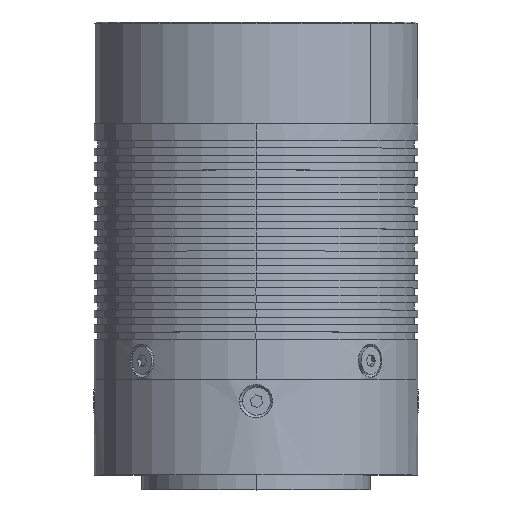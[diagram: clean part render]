
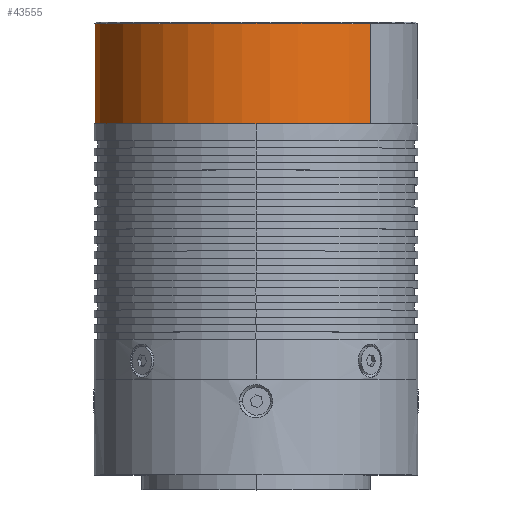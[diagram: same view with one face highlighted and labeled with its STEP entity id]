
A CAD part, top view. The second image highlights one B-rep face of the part: STEP entity #43555.
In plain terms, the highlighted cylindrical face has radius 22 mm (diameter 44 mm), a partial arc.
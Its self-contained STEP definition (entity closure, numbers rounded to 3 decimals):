
#2241 = FACE_OUTER_BOUND ( 'NONE', #58898, .T. ) ;
#5193 = DIRECTION ( 'NONE',  ( 0., 0., -1. ) ) ;
#7817 = VERTEX_POINT ( 'NONE', #62892 ) ;
#8615 = AXIS2_PLACEMENT_3D ( 'NONE', #73448, #18286, #45658 ) ;
#10533 = LINE ( 'NONE', #52326, #54822 ) ;
#12092 = EDGE_CURVE ( 'NONE', #69888, #16208, #10533, .T. ) ;
#12883 = CARTESIAN_POINT ( 'NONE',  ( 0., 13.4, 22. ) ) ;
#16208 = VERTEX_POINT ( 'NONE', #56932 ) ;
#18286 = DIRECTION ( 'NONE',  ( 0., -1., 0. ) ) ;
#19843 = AXIS2_PLACEMENT_3D ( 'NONE', #49856, #86871, #5193 ) ;
#20060 = CARTESIAN_POINT ( 'NONE',  ( 0., 14.1, 0. ) ) ;
#20492 = DIRECTION ( 'NONE',  ( 0., 0., 1. ) ) ;
#22979 = EDGE_CURVE ( 'NONE', #24377, #7817, #32238, .T. ) ;
#24377 = VERTEX_POINT ( 'NONE', #57342 ) ;
#28646 = CARTESIAN_POINT ( 'NONE',  ( 0., 14.1, -22. ) ) ;
#32238 = LINE ( 'NONE', #12883, #66881 ) ;
#37037 = ORIENTED_EDGE ( 'NONE', *, *, #22979, .F. ) ;
#38967 = DIRECTION ( 'NONE',  ( 0., -1., 0. ) ) ;
#42819 = ORIENTED_EDGE ( 'NONE', *, *, #12092, .T. ) ;
#43555 = ADVANCED_FACE ( 'NONE', ( #2241 ), #52386, .T. ) ;
#45658 = DIRECTION ( 'NONE',  ( 0., 0., -1. ) ) ;
#46090 = CIRCLE ( 'NONE', #64746, 22. ) ;
#49856 = CARTESIAN_POINT ( 'NONE',  ( 0., 13.4, 0. ) ) ;
#51679 = CIRCLE ( 'NONE', #8615, 22. ) ;
#51879 = DIRECTION ( 'NONE',  ( 0., -1., 0. ) ) ;
#52326 = CARTESIAN_POINT ( 'NONE',  ( 0., 13.4, -22. ) ) ;
#52386 = CYLINDRICAL_SURFACE ( 'NONE', #19843, 22. ) ;
#54822 = VECTOR ( 'NONE', #51879, 1000. ) ;
#56932 = CARTESIAN_POINT ( 'NONE',  ( 0., 0.5, -22. ) ) ;
#57342 = CARTESIAN_POINT ( 'NONE',  ( 0., 14.1, 22. ) ) ;
#58333 = ORIENTED_EDGE ( 'NONE', *, *, #85021, .F. ) ;
#58898 = EDGE_LOOP ( 'NONE', ( #37037, #74339, #42819, #58333 ) ) ;
#62892 = CARTESIAN_POINT ( 'NONE',  ( 0., 0.5, 22. ) ) ;
#64746 = AXIS2_PLACEMENT_3D ( 'NONE', #20060, #68094, #20492 ) ;
#66881 = VECTOR ( 'NONE', #38967, 1000. ) ;
#68094 = DIRECTION ( 'NONE',  ( 0., -1., 0. ) ) ;
#69888 = VERTEX_POINT ( 'NONE', #28646 ) ;
#73448 = CARTESIAN_POINT ( 'NONE',  ( 0., 0.5, 0. ) ) ;
#74339 = ORIENTED_EDGE ( 'NONE', *, *, #76286, .T. ) ;
#76286 = EDGE_CURVE ( 'NONE', #24377, #69888, #46090, .T. ) ;
#85021 = EDGE_CURVE ( 'NONE', #7817, #16208, #51679, .T. ) ;
#86871 = DIRECTION ( 'NONE',  ( 0., -1., 0. ) ) ;
